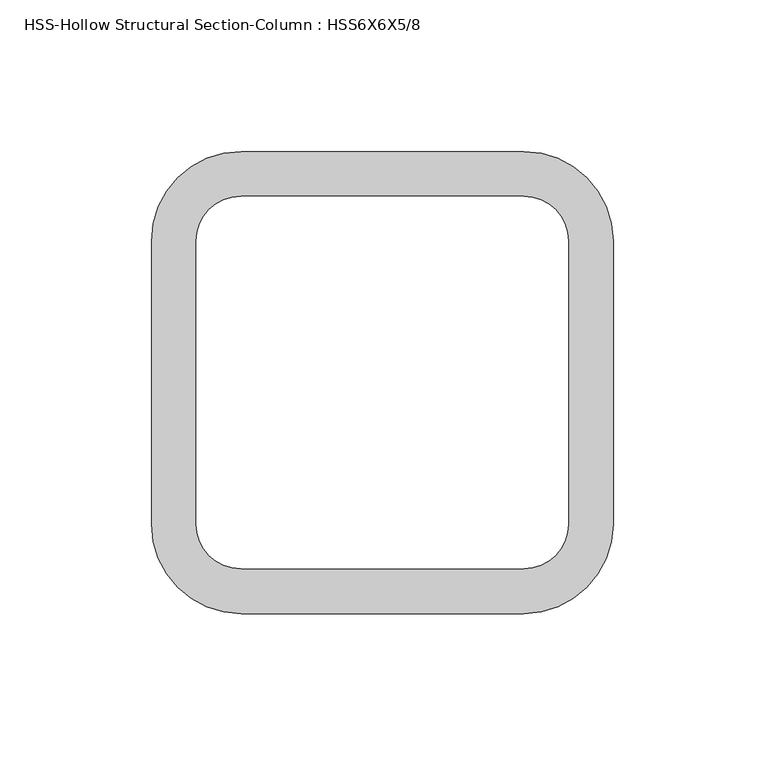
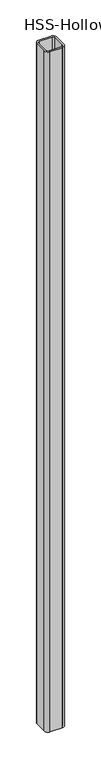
"""IFC4 building model written with IfcOpenShell, lengths in millimetres: column geometry, HSS-Hollow Structural Section-Column : HSS6X6X5/8."""

from ifc_helpers import new_model, si_unit, point, frame_2d, origin, origin_with_axes, place, context, project, spatial, polyline, circle_curve, trimmed, segment, composite_curve, outline, extrude, source, transform, mapped, element, save


def hss_hollow_structural_section_column_hss6x6x5_8_caf964b1(model_context):
    return source(origin(), model_context, "Body", "SweptSolid", [
        extrude(outline(composite_curve([segment(trimmed(circle_curve(frame_2d((46.6852, 46.6852)), 29.5148), [point((46.6852, 76.2))], [point((76.2, 46.6852))], False, "CARTESIAN"), True, "CONTINUOUS"), segment(polyline([(76.2, 46.6852), (76.2, -46.6852)]), True, "CONTINUOUS"), segment(trimmed(circle_curve(frame_2d((46.6852, -46.6852)), 29.5148), [point((76.2, -46.6852))], [point((46.6852, -76.2))], False, "CARTESIAN"), True, "CONTINUOUS"), segment(polyline([(46.6852, -76.2), (-46.6852, -76.2)]), True, "CONTINUOUS"), segment(trimmed(circle_curve(frame_2d((-46.6852, -46.6852)), 29.5148), [point((-46.6852, -76.2))], [point((-76.2, -46.6852))], False, "CARTESIAN"), True, "CONTINUOUS"), segment(polyline([(-76.2, -46.6852), (-76.2, 46.6852)]), True, "CONTINUOUS"), segment(trimmed(circle_curve(frame_2d((-46.6852, 46.6852)), 29.5148), [point((-76.2, 46.6852))], [point((-46.6852, 76.2))], False, "CARTESIAN"), True, "CONTINUOUS"), segment(polyline([(-46.6852, 76.2), (46.6852, 76.2)]), True, "CONTINUOUS")], self_intersect=False), holes=[composite_curve([segment(polyline([(46.6852, 61.4426), (-46.6852, 61.4426)]), True, "CONTINUOUS"), segment(trimmed(circle_curve(frame_2d((-46.6852, 46.6852)), 14.7574), [point((-46.6852, 61.4426))], [point((-61.4426, 46.6852))], True, "CARTESIAN"), True, "CONTINUOUS"), segment(polyline([(-61.4426, 46.6852), (-61.4426, -46.6852)]), True, "CONTINUOUS"), segment(trimmed(circle_curve(frame_2d((-46.6852, -46.6852)), 14.7574), [point((-61.4426, -46.6852))], [point((-46.6852, -61.4426))], True, "CARTESIAN"), True, "CONTINUOUS"), segment(polyline([(-46.6852, -61.4426), (46.6852, -61.4426)]), True, "CONTINUOUS"), segment(trimmed(circle_curve(frame_2d((46.6852, -46.6852)), 14.7574), [point((46.6852, -61.4426))], [point((61.4426, -46.6852))], True, "CARTESIAN"), True, "CONTINUOUS"), segment(polyline([(61.4426, -46.6852), (61.4426, 46.6852)]), True, "CONTINUOUS"), segment(trimmed(circle_curve(frame_2d((46.6852, 46.6852)), 14.7574), [point((61.4426, 46.6852))], [point((46.6852, 61.4426))], True, "CARTESIAN"), True, "CONTINUOUS")], self_intersect=False)]), origin_with_axes(), (0.0, 0.0, 1.0), 5486.4),
    ])


if __name__ == "__main__":
    model = new_model("IFC4")
    model_context = context("Model", 3, world=origin())
    ifc_project = project(units=[si_unit("LENGTHUNIT", "METRE", prefix="MILLI")], contexts=[model_context])
    site = spatial("IfcSite", under=ifc_project)
    building = spatial("IfcBuilding", under=site)
    placement = place(None, origin())
    hss_hollow_structural_section_column_hss6x6x5_8_shape = hss_hollow_structural_section_column_hss6x6x5_8_caf964b1(model_context)
    element("IfcColumn", 1, ObjectType="HSS-Hollow Structural Section-Column : HSS6X6X5/8", at=placement, inside=building, context=model_context, shape_type="MappedRepresentation", body=[
        mapped(hss_hollow_structural_section_column_hss6x6x5_8_shape, transform((0.0, 0.0, 0.0), x_axis=(1.0, 0.0, 0.0), y_axis=(0.0, 1.0, 0.0), z_axis=(0.0, 0.0, 1.0))),
    ])
    save(model, "model.ifc")
